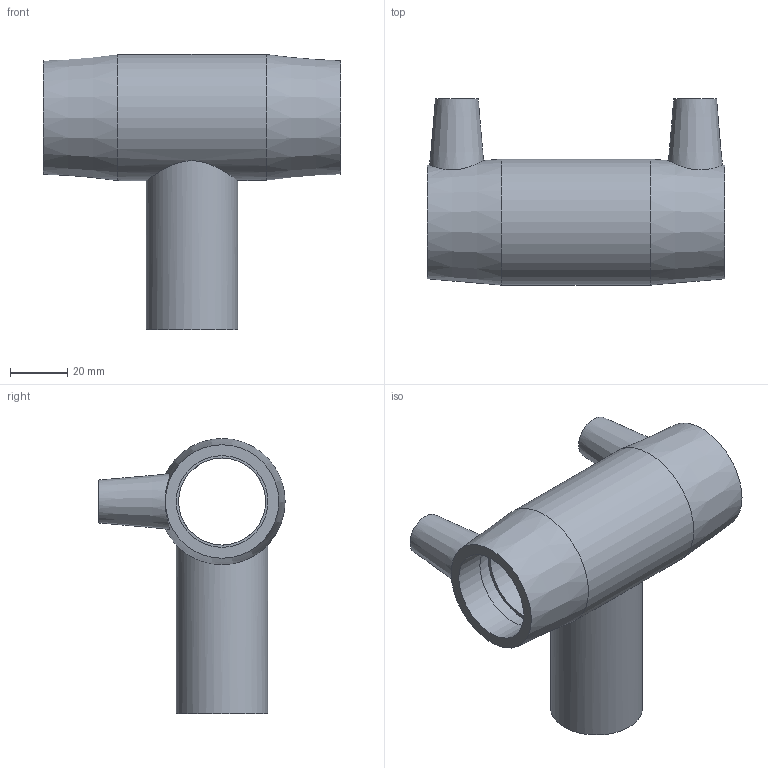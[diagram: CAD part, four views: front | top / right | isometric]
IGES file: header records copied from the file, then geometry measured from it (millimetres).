
Global section: file name: 490404032.ipt; native system: Autodesk Inventor 2015; preprocessor: unknown; author: KIM; date: 20171106.093609; units: millimetre
Bounding box: 104 x 65 x 96 mm (x, y, z)
Volume: 90056.7 mm3; surface area: 37794.7 mm2
Topology: 1 solids, 1 shells, 31 faces, 72 edges, 52 vertices
Faces by surface type: plane 13, revolution 10, cylinder 4, cone 4
Full cylindrical faces by diameter (mm): 4.8 x2, 32 x1, 44 x1
